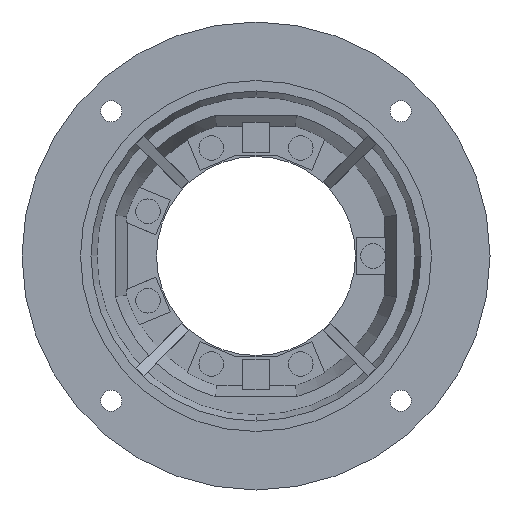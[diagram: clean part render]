
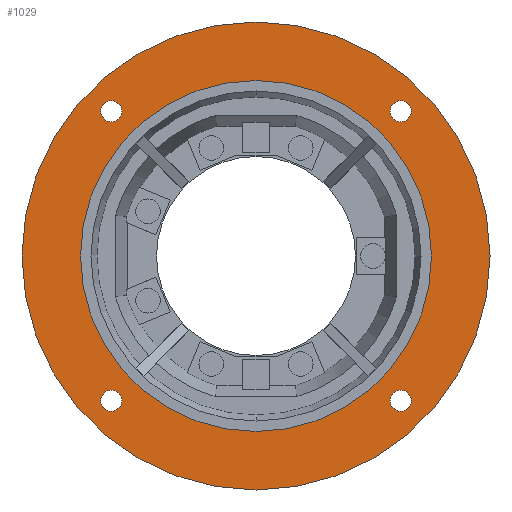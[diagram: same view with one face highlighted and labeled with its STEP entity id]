
A CAD part, left-side view. The second image highlights one B-rep face of the part: STEP entity #1029.
In plain terms, the highlighted planar face has unit normal (-1, 0, 0) as drawn and (1, 0, 0) by its records, which use the part's own axes.
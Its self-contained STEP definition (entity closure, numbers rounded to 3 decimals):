
#1029=ADVANCED_FACE('',(#1177,#1140,#1141,#1142,#1143,#1144),#3162,.T.);
#1140=FACE_BOUND('',#1315,.T.);
#1141=FACE_BOUND('',#1316,.T.);
#1142=FACE_BOUND('',#1317,.T.);
#1143=FACE_BOUND('',#1318,.T.);
#1144=FACE_BOUND('',#1319,.T.);
#1177=FACE_OUTER_BOUND('',#1314,.T.);
#1314=EDGE_LOOP('',(#1692,#1693));
#1315=EDGE_LOOP('',(#1694,#1695));
#1316=EDGE_LOOP('',(#1696,#1697));
#1317=EDGE_LOOP('',(#1698,#1699));
#1318=EDGE_LOOP('',(#1700,#1701));
#1319=EDGE_LOOP('',(#1702,#1703));
#1692=ORIENTED_EDGE('',*,*,#2411,.F.);
#1693=ORIENTED_EDGE('',*,*,#2222,.F.);
#1694=ORIENTED_EDGE('',*,*,#2447,.F.);
#1695=ORIENTED_EDGE('',*,*,#2403,.F.);
#1696=ORIENTED_EDGE('',*,*,#2445,.F.);
#1697=ORIENTED_EDGE('',*,*,#2399,.F.);
#1698=ORIENTED_EDGE('',*,*,#2443,.F.);
#1699=ORIENTED_EDGE('',*,*,#2395,.F.);
#1700=ORIENTED_EDGE('',*,*,#2441,.F.);
#1701=ORIENTED_EDGE('',*,*,#2391,.F.);
#1702=ORIENTED_EDGE('',*,*,#2415,.F.);
#1703=ORIENTED_EDGE('',*,*,#2226,.F.);
#2222=EDGE_CURVE('',#3047,#3085,#2488,.T.);
#2226=EDGE_CURVE('',#3048,#3086,#2491,.T.);
#2391=EDGE_CURVE('',#3052,#3104,#2508,.T.);
#2395=EDGE_CURVE('',#3051,#3105,#2511,.T.);
#2399=EDGE_CURVE('',#3050,#3106,#2514,.T.);
#2403=EDGE_CURVE('',#3049,#3107,#2517,.T.);
#2411=EDGE_CURVE('',#3085,#3047,#2522,.T.);
#2415=EDGE_CURVE('',#3086,#3048,#2525,.T.);
#2441=EDGE_CURVE('',#3104,#3052,#2542,.T.);
#2443=EDGE_CURVE('',#3105,#3051,#2543,.T.);
#2445=EDGE_CURVE('',#3106,#3050,#2544,.T.);
#2447=EDGE_CURVE('',#3107,#3049,#2545,.T.);
#2488=TRIMMED_CURVE($,#2578,(#4770),(#4771),.T.,.CARTESIAN.);
#2491=TRIMMED_CURVE($,#2581,(#4781),(#4782),.T.,.CARTESIAN.);
#2508=TRIMMED_CURVE($,#2598,(#5204),(#5205),.T.,.CARTESIAN.);
#2511=TRIMMED_CURVE($,#2601,(#5215),(#5216),.T.,.CARTESIAN.);
#2514=TRIMMED_CURVE($,#2604,(#5226),(#5227),.T.,.CARTESIAN.);
#2517=TRIMMED_CURVE($,#2607,(#5237),(#5238),.T.,.CARTESIAN.);
#2522=TRIMMED_CURVE($,#2612,(#5258),(#5259),.T.,.CARTESIAN.);
#2525=TRIMMED_CURVE($,#2615,(#5269),(#5270),.T.,.CARTESIAN.);
#2542=TRIMMED_CURVE($,#2632,(#5338),(#5339),.T.,.CARTESIAN.);
#2543=TRIMMED_CURVE($,#2633,(#5343),(#5344),.T.,.CARTESIAN.);
#2544=TRIMMED_CURVE($,#2634,(#5348),(#5349),.T.,.CARTESIAN.);
#2545=TRIMMED_CURVE($,#2635,(#5353),(#5354),.T.,.CARTESIAN.);
#2578=CIRCLE('',#3549,200.);
#2581=CIRCLE('',#3552,150.);
#2598=CIRCLE('',#3569,9.);
#2601=CIRCLE('',#3572,9.);
#2604=CIRCLE('',#3575,9.);
#2607=CIRCLE('',#3578,9.);
#2612=CIRCLE('',#3583,200.);
#2615=CIRCLE('',#3586,150.);
#2632=CIRCLE('',#3603,9.);
#2633=CIRCLE('',#3604,9.);
#2634=CIRCLE('',#3605,9.);
#2635=CIRCLE('',#3606,9.);
#3047=VERTEX_POINT('',#4420);
#3048=VERTEX_POINT('',#4421);
#3049=VERTEX_POINT('',#4422);
#3050=VERTEX_POINT('',#4423);
#3051=VERTEX_POINT('',#4424);
#3052=VERTEX_POINT('',#4425);
#3085=VERTEX_POINT('',#4458);
#3086=VERTEX_POINT('',#4459);
#3104=VERTEX_POINT('',#4477);
#3105=VERTEX_POINT('',#4478);
#3106=VERTEX_POINT('',#4479);
#3107=VERTEX_POINT('',#4480);
#3162=PLANE('',#3421);
#3421=AXIS2_PLACEMENT_3D('',#4147,#3626,$);
#3549=AXIS2_PLACEMENT_3D($,#4769,#3786,#3787);
#3552=AXIS2_PLACEMENT_3D($,#4780,#3792,#3793);
#3569=AXIS2_PLACEMENT_3D($,#5203,#3826,#3827);
#3572=AXIS2_PLACEMENT_3D($,#5214,#3832,#3833);
#3575=AXIS2_PLACEMENT_3D($,#5225,#3838,#3839);
#3578=AXIS2_PLACEMENT_3D($,#5236,#3844,#3845);
#3583=AXIS2_PLACEMENT_3D($,#5257,#3854,#3855);
#3586=AXIS2_PLACEMENT_3D($,#5268,#3860,#3861);
#3603=AXIS2_PLACEMENT_3D($,#5337,#3894,#3895);
#3604=AXIS2_PLACEMENT_3D($,#5342,#3896,#3897);
#3605=AXIS2_PLACEMENT_3D($,#5347,#3898,#3899);
#3606=AXIS2_PLACEMENT_3D($,#5352,#3900,#3901);
#3626=DIRECTION('',(1.,0.,0.));
#3786=DIRECTION('',(-1.,0.,0.));
#3787=DIRECTION('',(0.,0.,-1.));
#3792=DIRECTION('',(1.,0.,0.));
#3793=DIRECTION('',(0.,0.,-1.));
#3826=DIRECTION('',(1.,0.,0.));
#3827=DIRECTION('',(0.,0.,1.));
#3832=DIRECTION('',(1.,0.,0.));
#3833=DIRECTION('',(0.,0.,1.));
#3838=DIRECTION('',(1.,0.,0.));
#3839=DIRECTION('',(0.,0.,1.));
#3844=DIRECTION('',(1.,0.,0.));
#3845=DIRECTION('',(0.,0.,1.));
#3854=DIRECTION('',(-1.,0.,0.));
#3855=DIRECTION('',(0.,0.,1.));
#3860=DIRECTION('',(1.,0.,0.));
#3861=DIRECTION('',(0.,0.,1.));
#3894=DIRECTION('',(1.,0.,0.));
#3895=DIRECTION('',(0.,0.,-1.));
#3896=DIRECTION('',(1.,0.,0.));
#3897=DIRECTION('',(0.,0.,-1.));
#3898=DIRECTION('',(1.,0.,0.));
#3899=DIRECTION('',(0.,0.,-1.));
#3900=DIRECTION('',(1.,0.,0.));
#3901=DIRECTION('',(0.,0.,-1.));
#4147=CARTESIAN_POINT('',(49.5,-240.,-240.));
#4420=CARTESIAN_POINT('',(49.5,0.,-200.));
#4421=CARTESIAN_POINT('',(49.5,0.,-150.));
#4422=CARTESIAN_POINT('',(49.5,123.744,132.744));
#4423=CARTESIAN_POINT('',(49.5,-123.744,132.744));
#4424=CARTESIAN_POINT('',(49.5,-123.744,-114.744));
#4425=CARTESIAN_POINT('',(49.5,123.744,-114.744));
#4458=CARTESIAN_POINT('',(49.5,0.,200.));
#4459=CARTESIAN_POINT('',(49.5,0.,150.));
#4477=CARTESIAN_POINT('',(49.5,123.744,-132.744));
#4478=CARTESIAN_POINT('',(49.5,-123.744,-132.744));
#4479=CARTESIAN_POINT('',(49.5,-123.744,114.744));
#4480=CARTESIAN_POINT('',(49.5,123.744,114.744));
#4769=CARTESIAN_POINT('',(49.5,0.,0.));
#4770=CARTESIAN_POINT('',(49.5,0.,-200.));
#4771=CARTESIAN_POINT('',(49.5,0.,200.));
#4780=CARTESIAN_POINT('',(49.5,0.,0.));
#4781=CARTESIAN_POINT('',(49.5,0.,-150.));
#4782=CARTESIAN_POINT('',(49.5,0.,150.));
#5203=CARTESIAN_POINT('',(49.5,123.744,-123.744));
#5204=CARTESIAN_POINT('',(49.5,123.744,-114.744));
#5205=CARTESIAN_POINT('',(49.5,123.744,-132.744));
#5214=CARTESIAN_POINT('',(49.5,-123.744,-123.744));
#5215=CARTESIAN_POINT('',(49.5,-123.744,-114.744));
#5216=CARTESIAN_POINT('',(49.5,-123.744,-132.744));
#5225=CARTESIAN_POINT('',(49.5,-123.744,123.744));
#5226=CARTESIAN_POINT('',(49.5,-123.744,132.744));
#5227=CARTESIAN_POINT('',(49.5,-123.744,114.744));
#5236=CARTESIAN_POINT('',(49.5,123.744,123.744));
#5237=CARTESIAN_POINT('',(49.5,123.744,132.744));
#5238=CARTESIAN_POINT('',(49.5,123.744,114.744));
#5257=CARTESIAN_POINT('',(49.5,0.,0.));
#5258=CARTESIAN_POINT('',(49.5,0.,200.));
#5259=CARTESIAN_POINT('',(49.5,0.,-200.));
#5268=CARTESIAN_POINT('',(49.5,0.,0.));
#5269=CARTESIAN_POINT('',(49.5,0.,150.));
#5270=CARTESIAN_POINT('',(49.5,0.,-150.));
#5337=CARTESIAN_POINT('',(49.5,123.744,-123.744));
#5338=CARTESIAN_POINT('',(49.5,123.744,-132.744));
#5339=CARTESIAN_POINT('',(49.5,123.744,-114.744));
#5342=CARTESIAN_POINT('',(49.5,-123.744,-123.744));
#5343=CARTESIAN_POINT('',(49.5,-123.744,-132.744));
#5344=CARTESIAN_POINT('',(49.5,-123.744,-114.744));
#5347=CARTESIAN_POINT('',(49.5,-123.744,123.744));
#5348=CARTESIAN_POINT('',(49.5,-123.744,114.744));
#5349=CARTESIAN_POINT('',(49.5,-123.744,132.744));
#5352=CARTESIAN_POINT('',(49.5,123.744,123.744));
#5353=CARTESIAN_POINT('',(49.5,123.744,114.744));
#5354=CARTESIAN_POINT('',(49.5,123.744,132.744));
